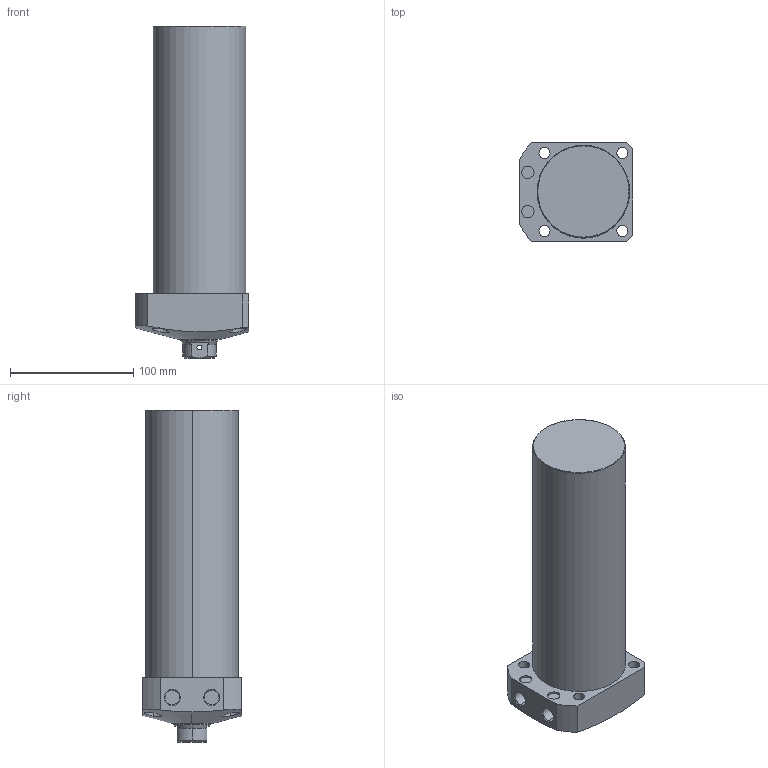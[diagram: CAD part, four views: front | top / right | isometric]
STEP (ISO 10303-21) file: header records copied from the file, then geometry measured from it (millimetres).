
FILE_DESCRIPTION (( 'STEP AP203' ), '1' );
FILE_NAME ('CLL-075CB-180.STEP', '2019-12-24T00:29:56', ( '' ), ( '' ), 'SwSTEP 2.0', 'SolidWorks 2015', '' );
FILE_SCHEMA (( 'CONFIG_CONTROL_DESIGN' ));
Length unit declared in the file: millimetre
Products named in the file (1): CLL-075CB-180
Bounding box: 92 x 80 x 269 mm (x, y, z)
Volume: 1177607.1 mm3; surface area: 83542.5 mm2
Topology: 1 solids, 1 shells, 78 faces, 183 edges, 116 vertices
Faces by surface type: cylinder 39, plane 22, cone 15, torus 2
Entity records: 2862 total; most frequent: CARTESIAN_POINT 955, DIRECTION 396, ORIENTED_EDGE 362, EDGE_CURVE 181, AXIS2_PLACEMENT_3D 164, VERTEX_POINT 116, EDGE_LOOP 101, CIRCLE 85
